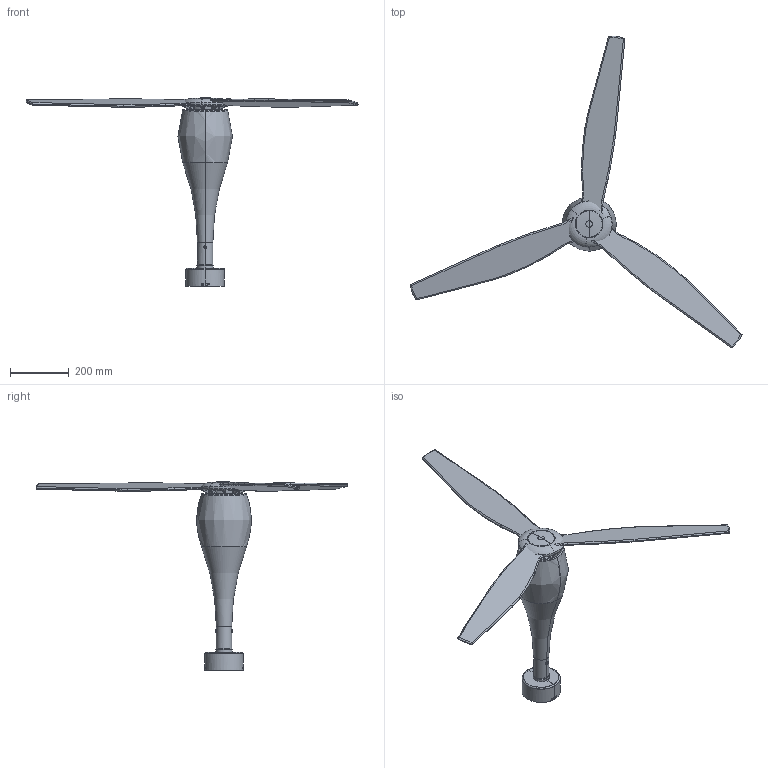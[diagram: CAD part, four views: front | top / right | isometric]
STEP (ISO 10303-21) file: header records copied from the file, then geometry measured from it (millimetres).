
FILE_DESCRIPTION(/* description */ (''),/* implementation_level */ '2;1');
FILE_NAME(/* name */ 'C:\Users\Franco Sartori E\Documents\FARO\DUPLICADO\Modelos\01_Digitalizados\PRIORIZACION 2D\0_ETERFAN\03_Publicación\ETERFAN\32001W.stp',/* time_stamp */ '2020-12-04T12:14:45+01:00',/* author */ ('Franco Sartori E'),/* organization */ (''),/* preprocessor_version */ 'ST-DEVELOPER v18.1',/* originating_system */ 'AutoCAD Mechanical',/* authorisation */ '');
FILE_SCHEMA (('AUTOMOTIVE_DESIGN { 1 0 10303 214 3 1 1 }'));
Length unit declared in the file: millimetre
Products named in the file (2): Product; ETERFAN - FAN-461661-_3D_
Assembly tree (1 placements, depth 2):
  Product
    ETERFAN - FAN-461661-_3D_
Bounding box: 1127.17 x 1058.55 x 640.76 mm (x, y, z)
Volume: 3200083.8 mm3; surface area: 989374.9 mm2
Topology: 22 solids, 23 shells, 660 faces, 1671 edges, 1050 vertices
Faces by surface type: plane 198, cylinder 195, torus 153, bspline 74, cone 34, sphere 6
Entity records: 29608 total; most frequent: CARTESIAN_POINT 15049, ORIENTED_EDGE 3254, DIRECTION 2520, EDGE_CURVE 1671, VERTEX_POINT 1050, AXIS2_PLACEMENT_3D 987, B_SPLINE_CURVE_WITH_KNOTS 725, EDGE_LOOP 717
